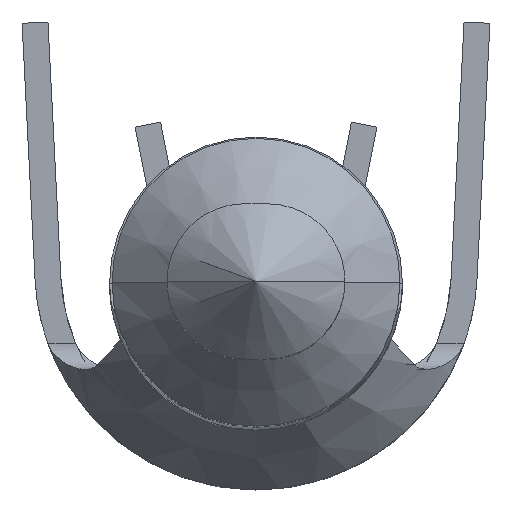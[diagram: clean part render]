
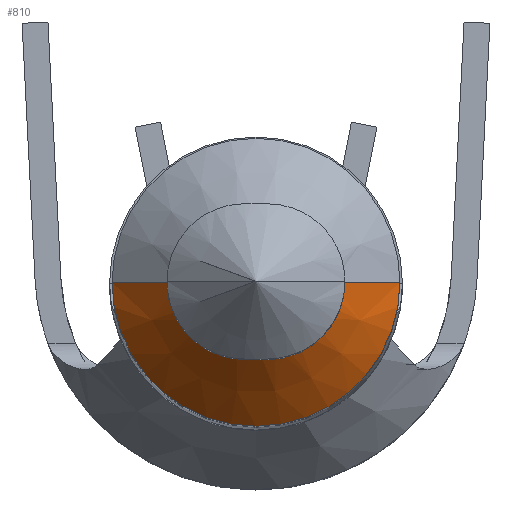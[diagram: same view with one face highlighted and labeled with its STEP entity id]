
A CAD part, top view. The second image highlights one B-rep face of the part: STEP entity #810.
In plain terms, the highlighted conical face has half-angle 42.658 degrees and reference radius 1.778 mm.
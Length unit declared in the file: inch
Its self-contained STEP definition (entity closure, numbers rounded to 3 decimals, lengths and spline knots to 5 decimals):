
#172 = VERTEX_POINT ( 'NONE', #1333 ) ;
#182 = VERTEX_POINT ( 'NONE', #1365 ) ;
#189 = VERTEX_POINT ( 'NONE', #1361 ) ;
#227 = EDGE_CURVE ( 'NONE', #241, #182, #1510, .T. ) ;
#239 = EDGE_CURVE ( 'NONE', #189, #172, #1530, .T. ) ;
#241 = VERTEX_POINT ( 'NONE', #1539 ) ;
#764 = EDGE_LOOP ( 'NONE', ( #811, #812, #853, #855, #858, #860 ) ) ;
#765 = VERTEX_POINT ( 'NONE', #3137 ) ;
#771 = EDGE_CURVE ( 'NONE', #827, #765, #3143, .T. ) ;
#785 = EDGE_CURVE ( 'NONE', #765, #241, #3247, .T. ) ;
#810 = ADVANCED_FACE ( 'NONE', ( #3315 ), #3310, .T. ) ;
#811 = ORIENTED_EDGE ( 'NONE', *, *, #239, .F. ) ;
#812 = ORIENTED_EDGE ( 'NONE', *, *, #830, .T. ) ;
#827 = VERTEX_POINT ( 'NONE', #3338 ) ;
#830 = EDGE_CURVE ( 'NONE', #189, #827, #3397, .T. ) ;
#853 = ORIENTED_EDGE ( 'NONE', *, *, #771, .T. ) ;
#855 = ORIENTED_EDGE ( 'NONE', *, *, #785, .T. ) ;
#856 = EDGE_CURVE ( 'NONE', #172, #182, #3456, .T. ) ;
#858 = ORIENTED_EDGE ( 'NONE', *, *, #227, .T. ) ;
#860 = ORIENTED_EDGE ( 'NONE', *, *, #856, .F. ) ;
#1333 = CARTESIAN_POINT ( 'NONE',  ( 0.07, 0., -0.29 ) ) ;
#1361 = CARTESIAN_POINT ( 'NONE',  ( 0.03775, 0., -0.255 ) ) ;
#1365 = CARTESIAN_POINT ( 'NONE',  ( -0.07, 0., -0.29 ) ) ;
#1505 = DIRECTION ( 'NONE',  ( -0.678, 0., -0.735 ) ) ;
#1506 = VECTOR ( 'NONE', #1505, 39.37008 ) ;
#1507 = CARTESIAN_POINT ( 'NONE',  ( -0.07, 0., -0.29 ) ) ;
#1510 = LINE ( 'NONE', #1507, #1506 ) ;
#1529 = CARTESIAN_POINT ( 'NONE',  ( 0.07, 0., -0.29 ) ) ;
#1530 = LINE ( 'NONE', #1529, #1566 ) ;
#1539 = CARTESIAN_POINT ( 'NONE',  ( -0.03775, 0., -0.255 ) ) ;
#1565 = DIRECTION ( 'NONE',  ( 0.678, 0., -0.735 ) ) ;
#1566 = VECTOR ( 'NONE', #1565, 39.37008 ) ;
#3137 = CARTESIAN_POINT ( 'NONE',  ( -0.0095, -0.03654, -0.255 ) ) ;
#3143 = B_SPLINE_CURVE_WITH_KNOTS ( 'NONE', 3,
 ( #3169, #3168, #3167, #3166 ),
 .UNSPECIFIED., .F., .F.,
 ( 4, 4 ),
 ( 0., 0.00049 ),
 .UNSPECIFIED. ) ;
#3166 = CARTESIAN_POINT ( 'NONE',  ( -0.0095, -0.03654, -0.255 ) ) ;
#3167 = CARTESIAN_POINT ( 'NONE',  ( -0.00327, -0.03815, -0.255 ) ) ;
#3168 = CARTESIAN_POINT ( 'NONE',  ( 0.00327, -0.03815, -0.255 ) ) ;
#3169 = CARTESIAN_POINT ( 'NONE',  ( 0.0095, -0.03654, -0.255 ) ) ;
#3240 = CARTESIAN_POINT ( 'NONE',  ( -0.03775, 0., -0.255 ) ) ;
#3241 = CARTESIAN_POINT ( 'NONE',  ( -0.03775, -0.00836, -0.255 ) ) ;
#3242 = CARTESIAN_POINT ( 'NONE',  ( -0.03497, -0.01649, -0.255 ) ) ;
#3243 = CARTESIAN_POINT ( 'NONE',  ( -0.02478, -0.02967, -0.255 ) ) ;
#3244 = CARTESIAN_POINT ( 'NONE',  ( -0.01759, -0.03443, -0.255 ) ) ;
#3245 = CARTESIAN_POINT ( 'NONE',  ( -0.0095, -0.03654, -0.255 ) ) ;
#3247 = B_SPLINE_CURVE_WITH_KNOTS ( 'NONE', 3,
 ( #3245, #3244, #3243, #3242, #3241, #3240 ),
 .UNSPECIFIED., .F., .F.,
 ( 4, 2, 4 ),
 ( 0., 0.00063, 0.00126 ),
 .UNSPECIFIED. ) ;
#3302 = DIRECTION ( 'NONE',  ( -1., 0., 0. ) ) ;
#3303 = DIRECTION ( 'NONE',  ( 0., 0., -1. ) ) ;
#3305 = CARTESIAN_POINT ( 'NONE',  ( 0., 0., -0.29 ) ) ;
#3310 = CONICAL_SURFACE ( 'NONE', #3313, 0.07, 0.745 ) ;
#3313 = AXIS2_PLACEMENT_3D ( 'NONE', #3305, #3303, #3302 ) ;
#3315 = FACE_OUTER_BOUND ( 'NONE', #764, .T. ) ;
#3338 = CARTESIAN_POINT ( 'NONE',  ( 0.0095, -0.03654, -0.255 ) ) ;
#3339 = CARTESIAN_POINT ( 'NONE',  ( 0.01759, -0.03443, -0.255 ) ) ;
#3340 = CARTESIAN_POINT ( 'NONE',  ( 0.02477, -0.02968, -0.255 ) ) ;
#3341 = CARTESIAN_POINT ( 'NONE',  ( 0.03497, -0.01648, -0.255 ) ) ;
#3342 = CARTESIAN_POINT ( 'NONE',  ( 0.03775, -0.00836, -0.255 ) ) ;
#3343 = CARTESIAN_POINT ( 'NONE',  ( 0.03775, 0., -0.255 ) ) ;
#3397 = B_SPLINE_CURVE_WITH_KNOTS ( 'NONE', 3,
 ( #3343, #3342, #3341, #3340, #3339, #3410 ),
 .UNSPECIFIED., .F., .F.,
 ( 4, 2, 4 ),
 ( 0.00126, 0.00189, 0.00252 ),
 .UNSPECIFIED. ) ;
#3401 = AXIS2_PLACEMENT_3D ( 'NONE', #3406, #3455, #3459 ) ;
#3406 = CARTESIAN_POINT ( 'NONE',  ( 0., 0., -0.29 ) ) ;
#3410 = CARTESIAN_POINT ( 'NONE',  ( 0.0095, -0.03654, -0.255 ) ) ;
#3455 = DIRECTION ( 'NONE',  ( 0., 0., -1. ) ) ;
#3456 = CIRCLE ( 'NONE', #3401, 0.07 ) ;
#3459 = DIRECTION ( 'NONE',  ( 1., 0., 0. ) ) ;
